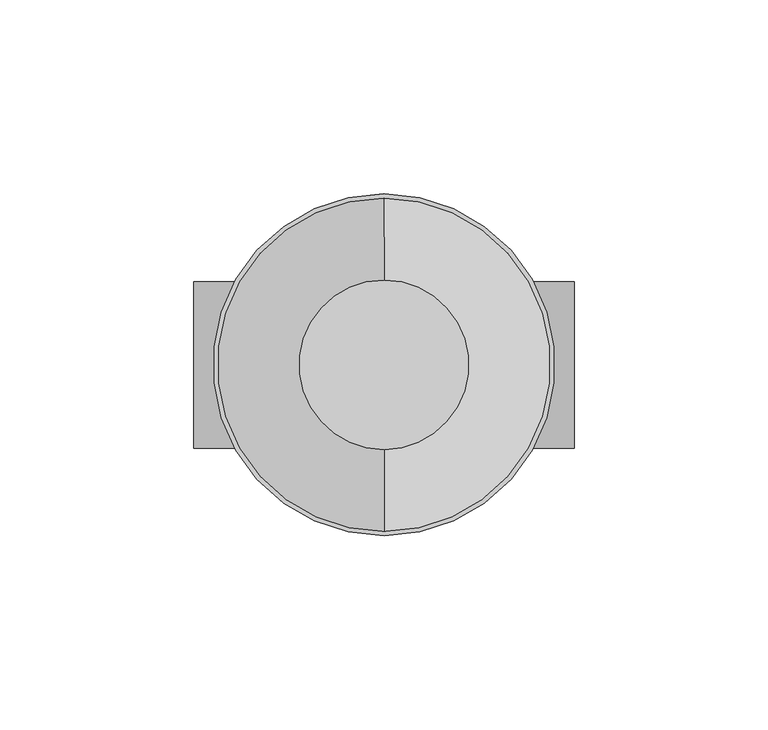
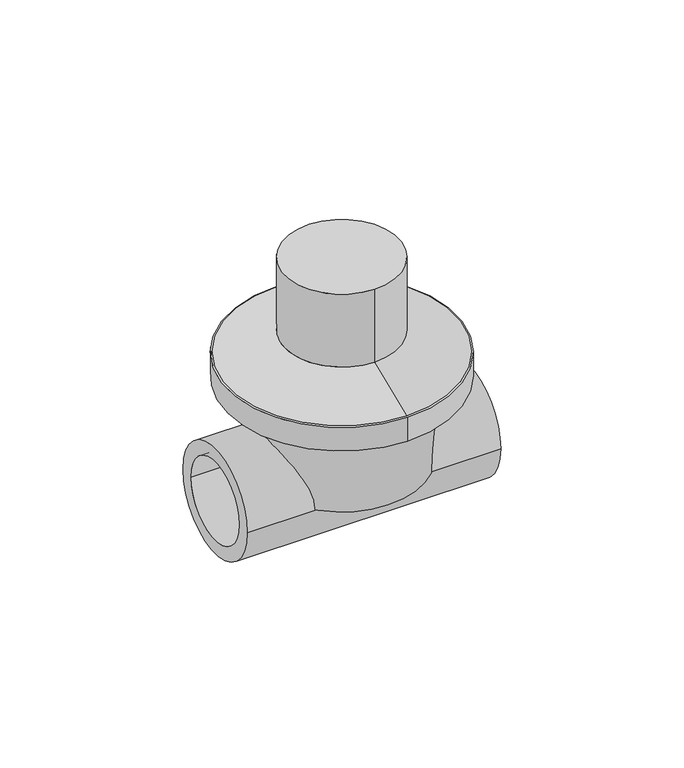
"""IFC4 building model written with IfcOpenShell, lengths in millimetres: valve geometry, Aquatherm - Concealed Valve Short Tamper Proof : SHORT TAMPER PROOF."""

from ifc_helpers import new_model, si_unit, point, frame, origin, origin_2d, place, context, project, spatial, polyline, circle_curve, trimmed, segment, composite_curve, outline, extrude, source, transform, mapped, element, save
from ifc_brep_helpers import plane_surface, cylinder_surface, revolved_surface, advanced_brep


def valve_51746717(model_context):
    return source(origin(), model_context, "Body", "SolidModel", [
        extrude(outline(composite_curve([segment(trimmed(circle_curve(origin_2d(), 44.069), [point((0.0, 44.069))], [point((0.0, -44.069))], False, "CARTESIAN"), True, "CONTINUOUS"), segment(trimmed(circle_curve(origin_2d(), 44.069), [point((0.0, -44.069))], [point((0.0, 44.069))], False, "CARTESIAN"), True, "CONTINUOUS")], self_intersect=False)), frame((0.0, 0.0, 34.036), z_axis=(0.0, 0.0, 1.0), x_axis=(1.0, 0.0, 0.0)), (0.0, 0.0, 1.0), 9.652),
        extrude(outline(composite_curve([segment(trimmed(circle_curve(origin_2d(), 21.844), [point((0.0, 21.844))], [point((0.0, -21.844))], False, "CARTESIAN"), True, "CONTINUOUS"), segment(trimmed(circle_curve(origin_2d(), 21.844), [point((0.0, -21.844))], [point((0.0, 21.844))], False, "CARTESIAN"), True, "CONTINUOUS")], self_intersect=False)), frame((0.0, 0.0, 52.832), z_axis=(0.0, 0.0, 1.0), x_axis=(1.0, 0.0, 0.0)), (0.0, 0.0, 1.0), 29.718),
        advanced_brep(
        [(0.0, 21.844, 52.832), (0.0, -21.844, 52.832), (0.0, 44.069, 43.688), (0.0, -44.069, 43.688)],
        [
            (0, 1, circle_curve(frame((0.0, 0.0, 52.832), z_axis=(0.0, 0.0, 1.0), x_axis=(0.0, 1.0, 0.0)), 21.844)),
            (1, 0, circle_curve(frame((0.0, 0.0, 52.832), z_axis=(0.0, 0.0, 1.0), x_axis=(0.0, -1.0, 0.0)), 21.844)),
            (2, 3, circle_curve(frame((0.0, 0.0, 43.688), z_axis=(0.0, 0.0, -1.0), x_axis=(0.0, -1.0, 0.0)), 44.069)),
            (3, 2, circle_curve(frame((0.0, 0.0, 43.688), z_axis=(0.0, 0.0, -1.0), x_axis=(0.0, 1.0, 0.0)), 44.069)),
            (3, 1),
            (0, 2),
        ],
        [
            plane_surface(frame((0.0, 0.0, 52.832), z_axis=(0.0, 0.0, 1.0), x_axis=(-1.0, 0.0, 0.0))),
            plane_surface(frame((0.0, 0.0, 43.688), z_axis=(0.0, 0.0, -1.0), x_axis=(-1.0, 0.0, 0.0))),
            revolved_surface(polyline([(0.0, 21.8439999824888, 52.832), (0.0, 44.069, 43.688)]), (0.0, 0.0, 61.8192457), (0.0, 0.0, -1.0)),
            revolved_surface(polyline([(0.0, -21.8439999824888, 52.832), (0.0, -44.069, 43.688)]), (0.0, 0.0, 61.8192457), (0.0, 0.0, -1.0)),
        ],
        [
            (0, [[1, 2]]),
            (1, [[3, 4]]),
            (2, [[-4, 5, -1, 6]]),
            (3, [[-3, -6, -2, -5]]),
        ],
    ),
        advanced_brep(
        [(0.0, 0.0, 34.036), (30.988, 0.0, 34.036), (-30.988, 0.0, 34.036), (-30.988, 0.0, 0.0), (30.988, 0.0, 0.0), (0.0, 0.0, 0.0)],
        [
            (0, 1),
            (1, 2, circle_curve(frame((0.0, 0.0, 34.036), z_axis=(0.0, 0.0, 1.0), x_axis=(1.0, 0.0, 0.0)), 30.988)),
            (2, 0),
            (2, 1, circle_curve(frame((0.0, 0.0, 34.036), z_axis=(0.0, 0.0, 1.0), x_axis=(1.0, 0.0, 0.0)), 30.988)),
            (3, 4, circle_curve(frame((0.0, 0.0, 0.0), z_axis=(0.0, 0.0, -1.0), x_axis=(1.0, 0.0, 0.0)), 30.988)),
            (4, 5),
            (5, 3),
            (4, 3, circle_curve(frame((0.0, 0.0, 0.0), z_axis=(0.0, 0.0, -1.0), x_axis=(1.0, 0.0, 0.0)), 30.988)),
            (1, 4),
            (3, 2),
        ],
        [
            plane_surface(frame((0.0, 0.0, 34.036), z_axis=(0.0, 0.0, 1.0), x_axis=(1.0, 0.0, 0.0))),
            plane_surface(frame((0.0, 0.0, 0.0), z_axis=(0.0, 0.0, -1.0), x_axis=(1.0, 0.0, 0.0))),
            cylinder_surface(frame((0.0, 0.0, 50.8044809), z_axis=(0.0, 0.0, 1.0), x_axis=(1.0, 0.0, 0.0)), 30.988),
        ],
        [
            (0, [[1, 2, 3]]),
            (0, [[-3, 4, -1]]),
            (1, [[5, 6, 7]]),
            (1, [[8, -7, -6]]),
            (2, [[-2, 9, -5, 10]]),
            (2, [[-4, -10, -8, -9]]),
        ],
    ),
        extrude(outline(composite_curve([segment(trimmed(circle_curve(origin_2d(), 21.463), [point((-21.463, 0.0))], [point((21.463, 0.0))], False, "CARTESIAN"), True, "CONTINUOUS"), segment(trimmed(circle_curve(origin_2d(), 21.463), [point((21.463, 0.0))], [point((-21.463, 0.0))], False, "CARTESIAN"), True, "CONTINUOUS")], self_intersect=False), holes=[composite_curve([segment(trimmed(circle_curve(origin_2d(), 16.002), [point((-16.002, 0.0))], [point((16.002, 0.0))], True, "CARTESIAN"), True, "CONTINUOUS"), segment(trimmed(circle_curve(origin_2d(), 16.002), [point((16.002, 0.0))], [point((-16.002, 0.0))], True, "CARTESIAN"), True, "CONTINUOUS")], self_intersect=False)]), frame((-49.022, 0.0, 0.0), z_axis=(1.0, 0.0, 0.0), x_axis=(0.0, 1.0, 0.0)), (0.0, 0.0, 1.0), 98.044),
    ])


if __name__ == "__main__":
    model = new_model("IFC4")
    model_context = context("Model", 3, world=origin())
    ifc_project = project(units=[si_unit("LENGTHUNIT", "METRE", prefix="MILLI")], contexts=[model_context])
    site = spatial("IfcSite", under=ifc_project)
    building = spatial("IfcBuilding", under=site)
    placement = place(None, origin())
    valve_shape = valve_51746717(model_context)
    element("IfcValve", 1, ObjectType="Aquatherm - Concealed Valve Short Tamper Proof : SHORT TAMPER PROOF", at=placement, inside=building, context=model_context, shape_type="MappedRepresentation", body=[
        mapped(valve_shape, transform((0.0, 0.0, 0.0), x_axis=(1.0, 0.0, 0.0), y_axis=(0.0, 1.0, 0.0), z_axis=(0.0, 0.0, 1.0))),
    ])
    save(model, "model.ifc")
